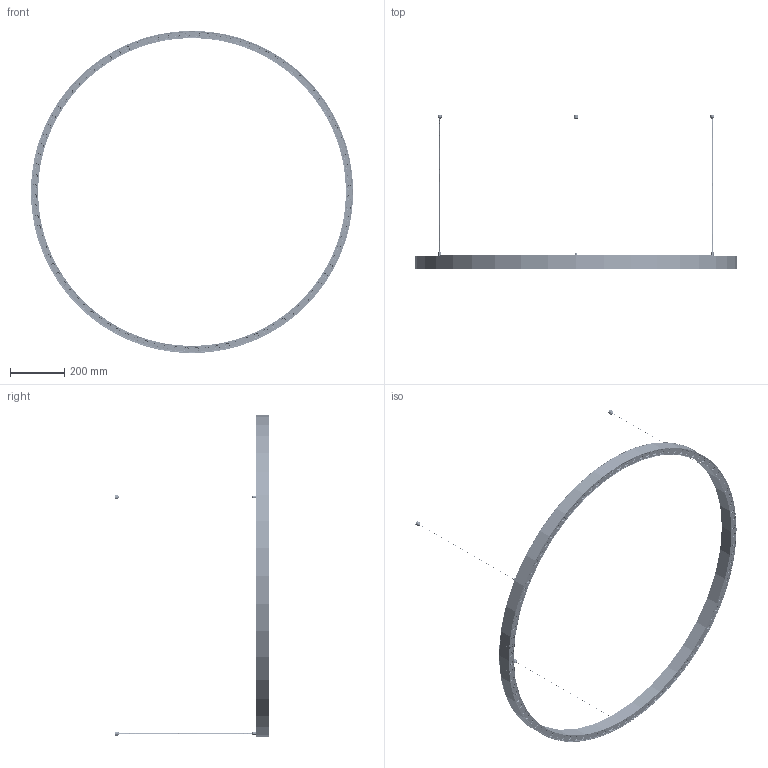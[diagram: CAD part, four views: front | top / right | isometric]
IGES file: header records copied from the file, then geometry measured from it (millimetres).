
Start section: SolidWorks IGES file using analytic representation for surfaces
Global section: file name: L:\Tecnico_PMT\R&D\PROGETTI ROADMAP 2023\ZIRKOL CIRCLE UGR\3D\DIAM 1188\3D PER SITO\EXPORT\ZIRKOL UGR D1188_rev0_SITO.IGS; native system: SolidWorks 2016; preprocessor: SolidWorks 2016; author: DavideGazzarata; date: 240223.152215; units: millimetre
Bounding box: 1188.3 x 569.88 x 1188.3 mm (x, y, z)
Surface area: 1519390.8 mm2 (no closed solid volume)
Topology: 0 solids, 0 shells, 5106 faces, 82935 edges, 82922 vertices
Faces by surface type: bspline 3193, revolution 1913
